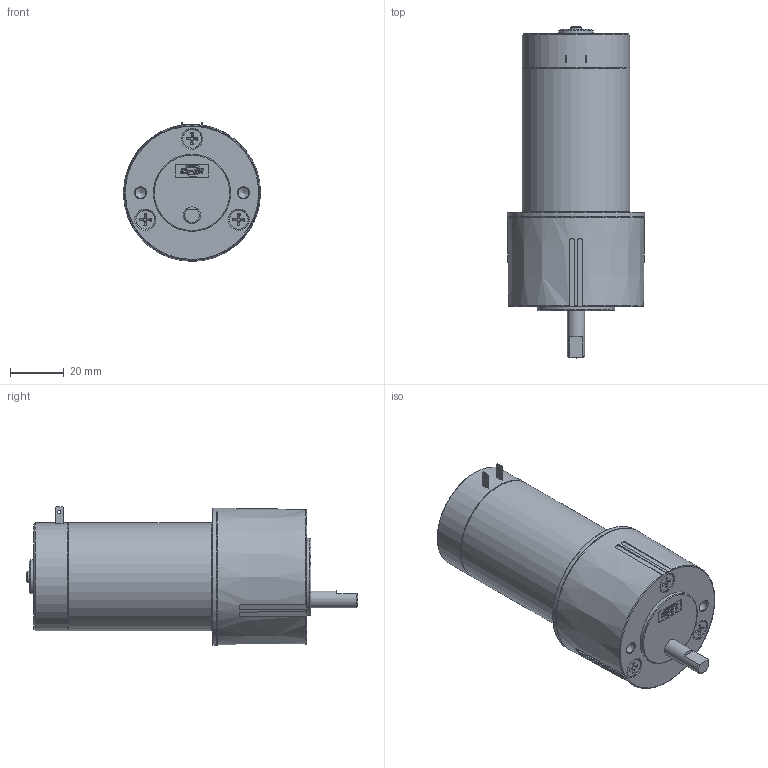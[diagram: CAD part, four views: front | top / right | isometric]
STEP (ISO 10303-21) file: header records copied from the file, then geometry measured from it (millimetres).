
FILE_DESCRIPTION((''),'2;1');
FILE_NAME('Z:\4_DC\새 폴더\RS4 SERIES\RS45ㅁㅁTㅁ.stp','2015-03-25T17:16:26',('kdhkdh'),(''),'Autodesk Inventor 2013','Autodesk Inventor 2013','');
FILE_SCHEMA(('AUTOMOTIVE_DESIGN { 1 0 10303 214 1 1 1 1 }'));
Length unit declared in the file: millimetre
Products named in the file (1): 부품2
Bounding box: 50.8 x 122.99 x 51.4 mm (x, y, z)
Volume: 154080.1 mm3; surface area: 19361 mm2
Topology: 1 solids, 3 shells, 367 faces, 967 edges, 633 vertices
Faces by surface type: plane 199, cylinder 101, cone 45, torus 22
Full cylindrical faces by diameter (mm): 1.2 x2, 2.8 x4, 3.5 x2, 3.7 x2, 3.962 x2, 4 x1, 6.34 x1, 6.9 x5, 7.8 x3, 12.7 x1, 28.575 x1, 40 x2, 50.8 x1
Entity records: 11662 total; most frequent: CARTESIAN_POINT 2925, ORIENTED_EDGE 1790, DIRECTION 1724, EDGE_CURVE 895, AXIS2_PLACEMENT_3D 633, VERTEX_POINT 614, EDGE_LOOP 458, VECTOR 458
